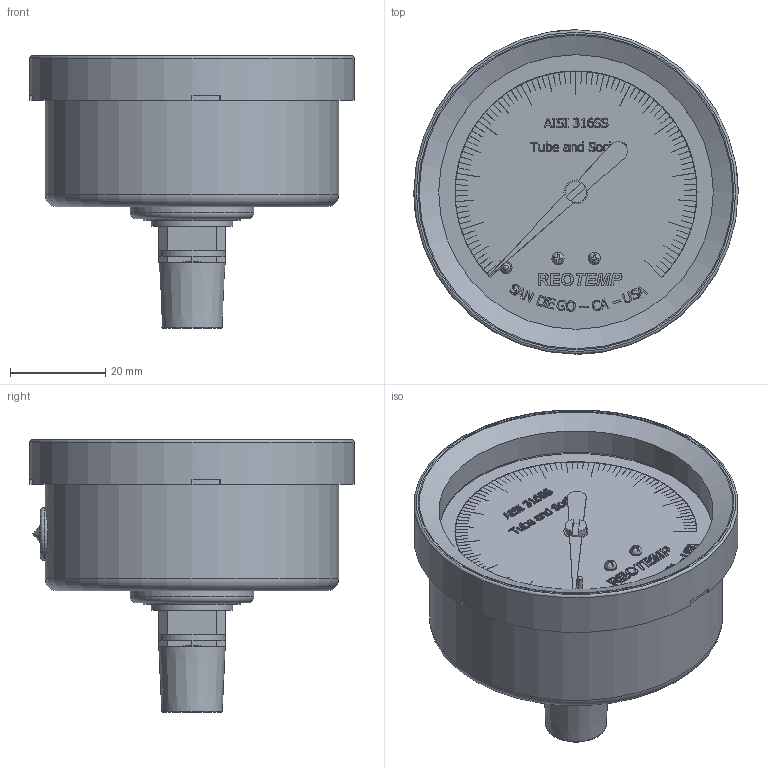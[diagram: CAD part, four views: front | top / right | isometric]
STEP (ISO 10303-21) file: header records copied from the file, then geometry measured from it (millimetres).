
FILE_DESCRIPTION(/* description */ (''),/* implementation_level */ '2;1');
FILE_NAME(/* name */ 'P:\3D Drawings\PR25\PR25-quarter-NPT-Back\PR25-quarter-NPT-Back-STP\PR25-quarter-NPT-Back-Connect-STP.stp',/* time_stamp */ '2015-11-06T15:52:41-08:00',/* author */ ('charles'),/* organization */ (''),/* preprocessor_version */ 'ST-DEVELOPER v15.2',/* originating_system */ 'Autodesk Inventor 2014',/* authorisation */ '');
FILE_SCHEMA (('AUTOMOTIVE_DESIGN { 1 0 10303 214 3 1 1 }'));
Length unit declared in the file: inch
Products named in the file (1): PR25-quarter-NPT-Back-Connect
Bounding box: 68.07 x 68.07 x 57.27 mm (x, y, z)
Volume: 88218.2 mm3; surface area: 47769.7 mm2
Topology: 9 solids, 13 shells, 1329 faces, 3547 edges, 2346 vertices
Faces by surface type: plane 913, bspline 314, cylinder 85, torus 9, cone 5, sphere 3
Full cylindrical faces by diameter (mm): 1.016 x2, 2.54 x3, 3.048 x1, 4.064 x1, 4.445 x1, 11.176 x1, 13.97 x1, 17.145 x1, 25.908 x1, 57.658 x2, 61.595 x1, 68.072 x1
Entity records: 44485 total; most frequent: CARTESIAN_POINT 12257, ORIENTED_EDGE 7036, DIRECTION 5137, EDGE_CURVE 3500, LINE 2621, VECTOR 2621, VERTEX_POINT 2331, EDGE_LOOP 1479
